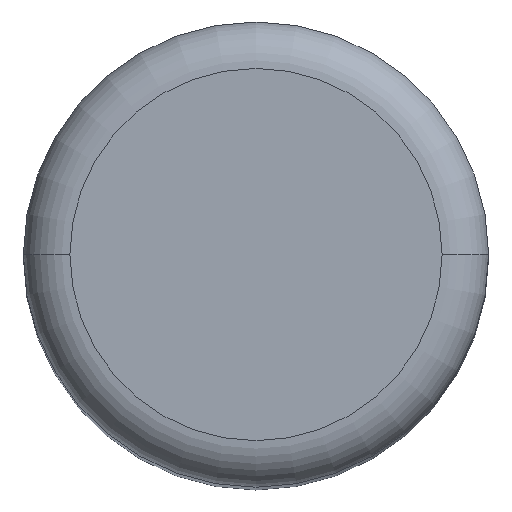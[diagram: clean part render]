
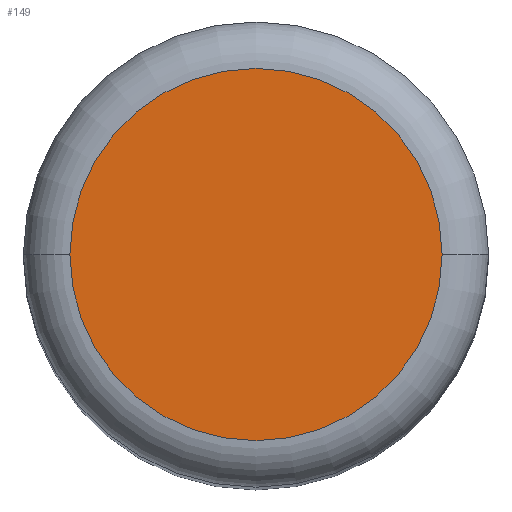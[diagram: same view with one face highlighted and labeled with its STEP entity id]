
A CAD part, top view. The second image highlights one B-rep face of the part: STEP entity #149.
In plain terms, the highlighted planar face has unit normal (0, 0, 1).
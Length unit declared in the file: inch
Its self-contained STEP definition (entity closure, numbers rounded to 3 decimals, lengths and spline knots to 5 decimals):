
#15 = CARTESIAN_POINT ( 'NONE',  ( 0., 0., 1.75 ) ) ;
#26 = ORIENTED_EDGE ( 'NONE', *, *, #48, .T. ) ;
#29 = VERTEX_POINT ( 'NONE', #168 ) ;
#30 = EDGE_LOOP ( 'NONE', ( #26, #55 ) ) ;
#36 = AXIS2_PLACEMENT_3D ( 'NONE', #129, #62, #126 ) ;
#40 = DIRECTION ( 'NONE',  ( 1., 0., 0. ) ) ;
#45 = DIRECTION ( 'NONE',  ( 0., 0., 1. ) ) ;
#48 = EDGE_CURVE ( 'NONE', #29, #184, #121, .T. ) ;
#55 = ORIENTED_EDGE ( 'NONE', *, *, #122, .T. ) ;
#62 = DIRECTION ( 'NONE',  ( 0., 0., 1. ) ) ;
#73 = DIRECTION ( 'NONE',  ( 1., 0., 0. ) ) ;
#109 = CIRCLE ( 'NONE', #36, 0.2 ) ;
#121 = CIRCLE ( 'NONE', #159, 0.2 ) ;
#122 = EDGE_CURVE ( 'NONE', #184, #29, #109, .T. ) ;
#125 = DIRECTION ( 'NONE',  ( 0., 0., 1. ) ) ;
#126 = DIRECTION ( 'NONE',  ( 1., 0., 0. ) ) ;
#129 = CARTESIAN_POINT ( 'NONE',  ( 0., 0., 1.75 ) ) ;
#149 = ADVANCED_FACE ( 'NONE', ( #185 ), #157, .T. ) ;
#157 = PLANE ( 'NONE',  #174 ) ;
#159 = AXIS2_PLACEMENT_3D ( 'NONE', #198, #45, #40 ) ;
#168 = CARTESIAN_POINT ( 'NONE',  ( 0.2, 0., 1.75 ) ) ;
#174 = AXIS2_PLACEMENT_3D ( 'NONE', #15, #125, #73 ) ;
#184 = VERTEX_POINT ( 'NONE', #201 ) ;
#185 = FACE_OUTER_BOUND ( 'NONE', #30, .T. ) ;
#198 = CARTESIAN_POINT ( 'NONE',  ( 0., 0., 1.75 ) ) ;
#201 = CARTESIAN_POINT ( 'NONE',  ( -0.2, 0., 1.75 ) ) ;
